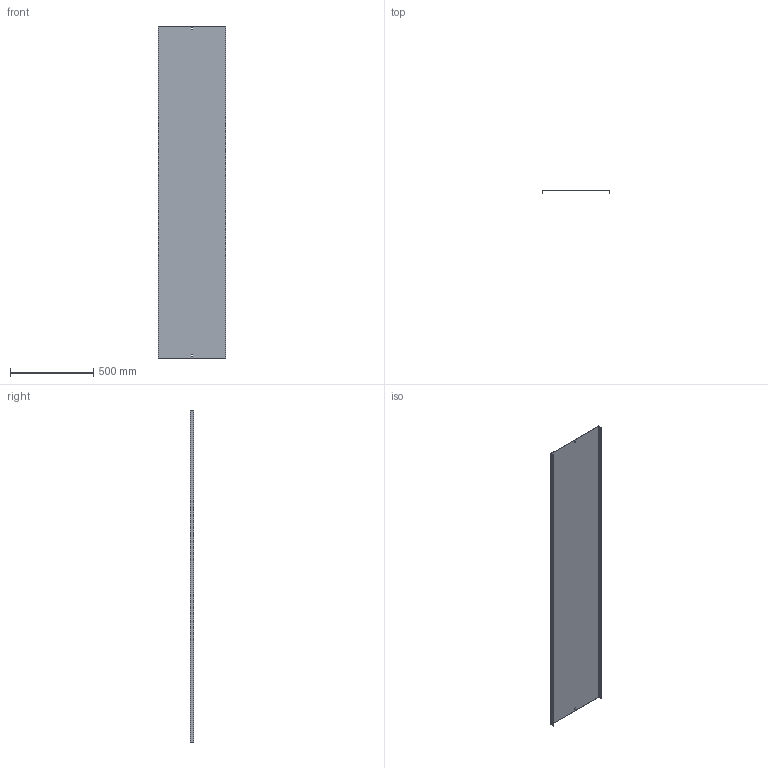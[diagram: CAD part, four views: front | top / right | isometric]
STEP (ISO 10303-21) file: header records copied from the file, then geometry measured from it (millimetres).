
FILE_DESCRIPTION (( 'STEP AP214' ), '1' );
FILE_NAME ('05G2R400.step', '2025-02-21T13:07:26', ( '' ), ( '' ), 'SwSTEP 2.0', 'SolidWorks 2023', '' );
FILE_SCHEMA (( 'AUTOMOTIVE_DESIGN' ));
Length unit declared in the file: millimetre
Products named in the file (1): 05G2R400
Bounding box: 407 x 20 x 2000 mm (x, y, z)
Volume: 1331824.5 mm3; surface area: 1783191 mm2
Topology: 1 solids, 1 shells, 18 faces, 48 edges, 32 vertices
Faces by surface type: plane 18
Entity records: 583 total; most frequent: CARTESIAN_POINT 99, ORIENTED_EDGE 96, DIRECTION 86, LINE 48, EDGE_CURVE 48, VECTOR 48, VERTEX_POINT 32, EDGE_LOOP 22
